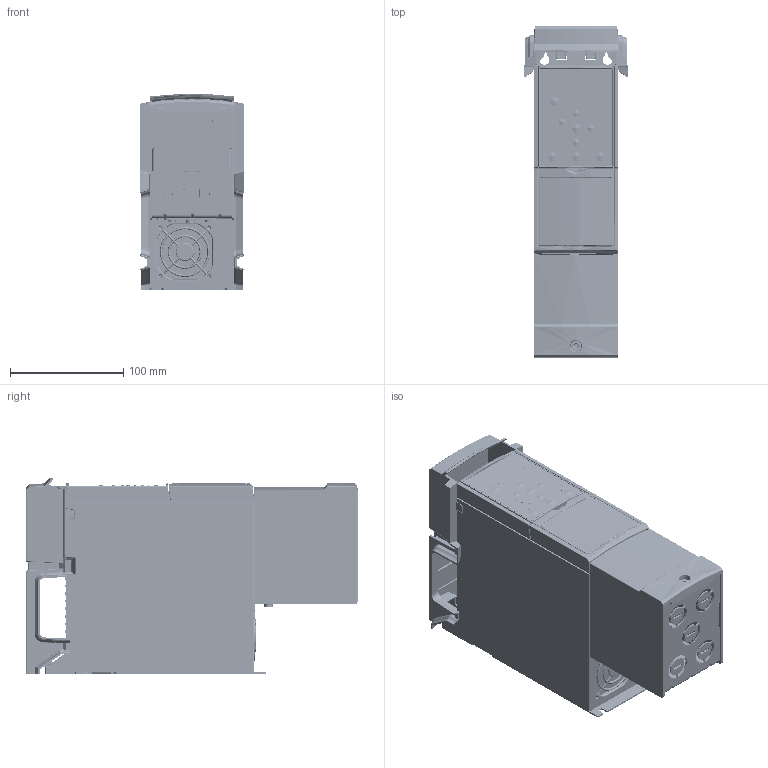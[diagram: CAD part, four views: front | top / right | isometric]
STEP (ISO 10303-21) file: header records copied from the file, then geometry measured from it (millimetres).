
FILE_DESCRIPTION((''),'2;1');
FILE_NAME('H1-IP21','2012-11-22T',('u243993'),('Danfoss Power Electronics'),'PRO/ENGINEER BY PARAMETRIC TECHNOLOGY CORPORATION, 2011490','PRO/ENGINEER BY PARAMETRIC TECHNOLOGY CORPORATION, 2011490','');
FILE_SCHEMA(('CONFIG_CONTROL_DESIGN', 'GEOMETRIC_VALIDATION_PROPERTIES_MIM'));
Products named in the file (1): H1-IP21
Bounding box: 91.53 x 293 x 173.51 mm (x, y, z)
Volume: 91480.6 mm3; surface area: 416636.6 mm2
Topology: 17 solids, 18 shells, 14122 faces, 39511 edges, 25711 vertices
Faces by surface type: plane 10542, cylinder 2224, bspline 521, torus 325, sphere 270, cone 211, extrusion 29
Entity records: 549677 total; most frequent: CARTESIAN_POINT 159413, ORIENTED_EDGE 78608, DIRECTION 61774, EDGE_CURVE 39304, VERTEX_POINT 25711, VECTOR 24008, LINE 23979, AXIS2_PLACEMENT_3D 18883
